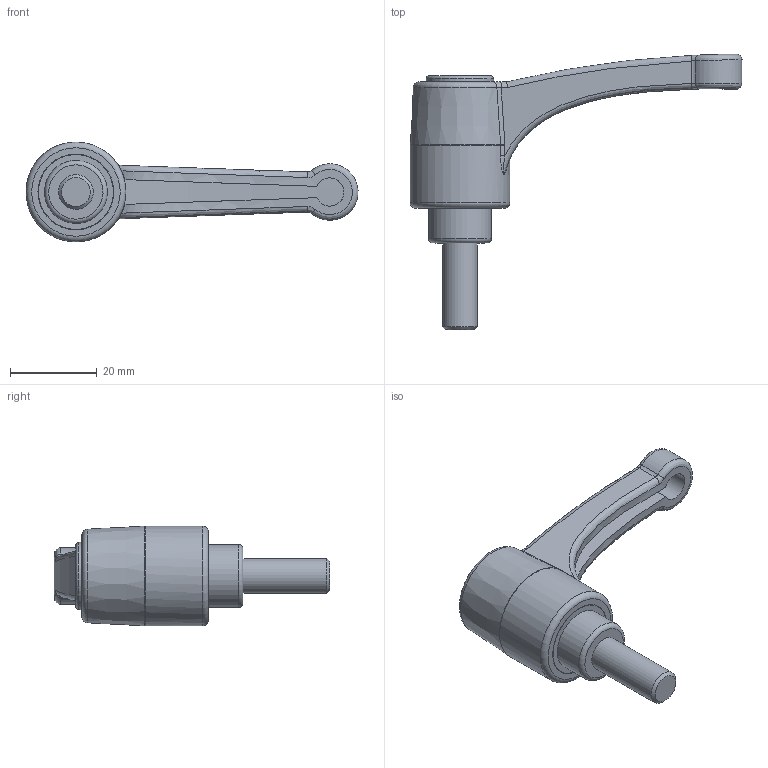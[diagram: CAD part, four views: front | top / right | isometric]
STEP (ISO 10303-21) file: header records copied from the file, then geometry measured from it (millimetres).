
FILE_DESCRIPTION(/* description */ ('CLAMPING LEVER M8 x 20 MM'),/* implementation_level */ '2;1');
FILE_NAME(/* name */ '\\carryline.intra\privat\users\mathias\Desktop\Tillfälliga filer\300-3300.stp',/* time_stamp */ '2018-11-30T09:59:00+01:00',/* author */ ('Mathias'),/* organization */ ('Carryline'),/* preprocessor_version */ 'ST-DEVELOPER v17',/* originating_system */ 'Autodesk Inventor 2018',/* authorisation */ '');
FILE_SCHEMA (('AUTOMOTIVE_DESIGN { 1 0 10303 214 3 1 1 }'));
Length unit declared in the file: millimetre
Products named in the file (1): 300-3300
Bounding box: 76.48 x 63.5 x 23 mm (x, y, z)
Volume: 17888.7 mm3; surface area: 9377.8 mm2
Topology: 2 solids, 2 shells, 59 faces, 158 edges, 105 vertices
Faces by surface type: bspline 21, cylinder 16, plane 11, torus 6, cone 5
Full cylindrical faces by diameter (mm): 8 x1, 14.5 x1, 15.519 x1, 17.25 x1, 17.48 x1, 23 x1
Entity records: 4714 total; most frequent: CARTESIAN_POINT 3298, ORIENTED_EDGE 316, DIRECTION 263, EDGE_CURVE 158, AXIS2_PLACEMENT_3D 117, VERTEX_POINT 105, CIRCLE 67, EDGE_LOOP 63
